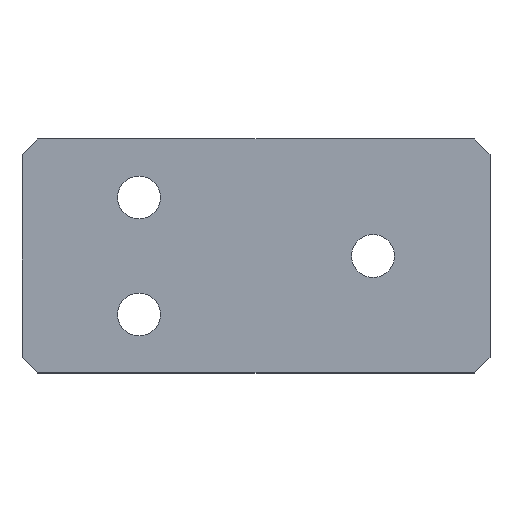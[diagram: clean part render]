
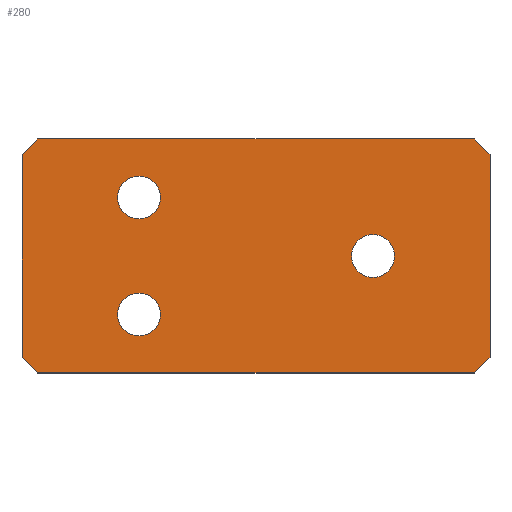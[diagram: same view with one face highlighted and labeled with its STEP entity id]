
A CAD part, top view. The second image highlights one B-rep face of the part: STEP entity #280.
In plain terms, the highlighted planar face has unit normal (0, 0, 1).
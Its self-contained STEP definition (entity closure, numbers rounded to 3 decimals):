
#1 = CARTESIAN_POINT ( 'NONE',  ( -15., 7.5, 2. ) ) ;
#2 = CIRCLE ( 'NONE', #558, 2.75 ) ;
#6 = CARTESIAN_POINT ( 'NONE',  ( 28., 15., 2. ) ) ;
#8 = VERTEX_POINT ( 'NONE', #91 ) ;
#15 = EDGE_CURVE ( 'NONE', #136, #512, #89, .T. ) ;
#20 = PLANE ( 'NONE',  #589 ) ;
#24 = AXIS2_PLACEMENT_3D ( 'NONE', #281, #248, #240 ) ;
#30 = ORIENTED_EDGE ( 'NONE', *, *, #15, .T. ) ;
#36 = LINE ( 'NONE', #352, #222 ) ;
#46 = VERTEX_POINT ( 'NONE', #254 ) ;
#48 = VERTEX_POINT ( 'NONE', #389 ) ;
#57 = CARTESIAN_POINT ( 'NONE',  ( -15., 7.5, 2. ) ) ;
#59 = DIRECTION ( 'NONE',  ( 0., 0., 1. ) ) ;
#73 = ORIENTED_EDGE ( 'NONE', *, *, #587, .F. ) ;
#77 = FACE_BOUND ( 'NONE', #538, .T. ) ;
#80 = VECTOR ( 'NONE', #577, 1000. ) ;
#86 = ORIENTED_EDGE ( 'NONE', *, *, #123, .T. ) ;
#89 = LINE ( 'NONE', #271, #228 ) ;
#91 = CARTESIAN_POINT ( 'NONE',  ( 17.75, 0., 2. ) ) ;
#104 = FACE_BOUND ( 'NONE', #557, .T. ) ;
#105 = VERTEX_POINT ( 'NONE', #524 ) ;
#107 = DIRECTION ( 'NONE',  ( 1., 0., 0. ) ) ;
#113 = DIRECTION ( 'NONE',  ( -0.707, -0.707, 0. ) ) ;
#114 = CIRCLE ( 'NONE', #362, 2.75 ) ;
#120 = EDGE_LOOP ( 'NONE', ( #477, #422 ) ) ;
#121 = VECTOR ( 'NONE', #574, 1000. ) ;
#123 = EDGE_CURVE ( 'NONE', #211, #432, #213, .T. ) ;
#135 = CARTESIAN_POINT ( 'NONE',  ( -15., -7.5, 2. ) ) ;
#136 = VERTEX_POINT ( 'NONE', #296 ) ;
#140 = ORIENTED_EDGE ( 'NONE', *, *, #232, .T. ) ;
#144 = DIRECTION ( 'NONE',  ( 1., 0., 0. ) ) ;
#152 = CARTESIAN_POINT ( 'NONE',  ( 15., 0., 2. ) ) ;
#153 = LINE ( 'NONE', #476, #404 ) ;
#154 = ORIENTED_EDGE ( 'NONE', *, *, #523, .T. ) ;
#162 = VERTEX_POINT ( 'NONE', #481 ) ;
#172 = CARTESIAN_POINT ( 'NONE',  ( 30., 15., 2. ) ) ;
#183 = DIRECTION ( 'NONE',  ( -0.707, 0.707, 0. ) ) ;
#188 = CARTESIAN_POINT ( 'NONE',  ( 30., -15., 2. ) ) ;
#191 = DIRECTION ( 'NONE',  ( 1., 0., 0. ) ) ;
#193 = LINE ( 'NONE', #239, #375 ) ;
#198 = CARTESIAN_POINT ( 'NONE',  ( -15., -7.5, 2. ) ) ;
#201 = VECTOR ( 'NONE', #545, 1000. ) ;
#204 = CARTESIAN_POINT ( 'NONE',  ( 0., 0., 2. ) ) ;
#211 = VERTEX_POINT ( 'NONE', #561 ) ;
#212 = EDGE_CURVE ( 'NONE', #8, #46, #459, .T. ) ;
#213 = LINE ( 'NONE', #530, #121 ) ;
#222 = VECTOR ( 'NONE', #349, 1000. ) ;
#228 = VECTOR ( 'NONE', #183, 1000. ) ;
#232 = EDGE_CURVE ( 'NONE', #384, #105, #153, .T. ) ;
#234 = DIRECTION ( 'NONE',  ( 0.707, -0.707, 0. ) ) ;
#235 = ORIENTED_EDGE ( 'NONE', *, *, #212, .F. ) ;
#239 = CARTESIAN_POINT ( 'NONE',  ( -21.5, -21.5, 2. ) ) ;
#240 = DIRECTION ( 'NONE',  ( 1., 0., 0. ) ) ;
#246 = ORIENTED_EDGE ( 'NONE', *, *, #584, .F. ) ;
#247 = VERTEX_POINT ( 'NONE', #370 ) ;
#248 = DIRECTION ( 'NONE',  ( 0., 0., 1. ) ) ;
#253 = EDGE_LOOP ( 'NONE', ( #334, #457, #423, #86, #154, #30, #373, #140 ) ) ;
#254 = CARTESIAN_POINT ( 'NONE',  ( 12.25, 0., 2. ) ) ;
#258 = DIRECTION ( 'NONE',  ( 1., 0., 0. ) ) ;
#259 = CARTESIAN_POINT ( 'NONE',  ( -28., 15., 2. ) ) ;
#260 = VECTOR ( 'NONE', #398, 1000. ) ;
#263 = CARTESIAN_POINT ( 'NONE',  ( 30., -15., 2. ) ) ;
#271 = CARTESIAN_POINT ( 'NONE',  ( 21.5, 21.5, 2. ) ) ;
#274 = DIRECTION ( 'NONE',  ( 1., 0., 0. ) ) ;
#276 = DIRECTION ( 'NONE',  ( 0., 0., 1. ) ) ;
#280 = ADVANCED_FACE ( 'NONE', ( #77, #104, #468, #383 ), #20, .T. ) ;
#281 = CARTESIAN_POINT ( 'NONE',  ( 15., 0., 2. ) ) ;
#296 = CARTESIAN_POINT ( 'NONE',  ( 30., 13., 2. ) ) ;
#302 = AXIS2_PLACEMENT_3D ( 'NONE', #152, #331, #107 ) ;
#304 = LINE ( 'NONE', #172, #80 ) ;
#317 = CIRCLE ( 'NONE', #588, 2.75 ) ;
#324 = CIRCLE ( 'NONE', #302, 2.75 ) ;
#329 = EDGE_CURVE ( 'NONE', #590, #211, #583, .T. ) ;
#331 = DIRECTION ( 'NONE',  ( 0., 0., 1. ) ) ;
#334 = ORIENTED_EDGE ( 'NONE', *, *, #372, .T. ) ;
#346 = EDGE_CURVE ( 'NONE', #512, #384, #304, .T. ) ;
#349 = DIRECTION ( 'NONE',  ( 0., -1., 0. ) ) ;
#350 = VERTEX_POINT ( 'NONE', #490 ) ;
#352 = CARTESIAN_POINT ( 'NONE',  ( -30., -15., 2. ) ) ;
#355 = DIRECTION ( 'NONE',  ( 1., 0., 0. ) ) ;
#362 = AXIS2_PLACEMENT_3D ( 'NONE', #135, #449, #355 ) ;
#370 = CARTESIAN_POINT ( 'NONE',  ( -12.25, -7.5, 2. ) ) ;
#372 = EDGE_CURVE ( 'NONE', #105, #471, #36, .T. ) ;
#373 = ORIENTED_EDGE ( 'NONE', *, *, #346, .T. ) ;
#375 = VECTOR ( 'NONE', #234, 1000. ) ;
#383 = FACE_OUTER_BOUND ( 'NONE', #253, .T. ) ;
#384 = VERTEX_POINT ( 'NONE', #259 ) ;
#387 = ORIENTED_EDGE ( 'NONE', *, *, #391, .F. ) ;
#389 = CARTESIAN_POINT ( 'NONE',  ( -17.75, -7.5, 2. ) ) ;
#391 = EDGE_CURVE ( 'NONE', #247, #48, #114, .T. ) ;
#398 = DIRECTION ( 'NONE',  ( 1., 0., 0. ) ) ;
#404 = VECTOR ( 'NONE', #113, 1000. ) ;
#409 = DIRECTION ( 'NONE',  ( 0., 0., 1. ) ) ;
#422 = ORIENTED_EDGE ( 'NONE', *, *, #496, .F. ) ;
#423 = ORIENTED_EDGE ( 'NONE', *, *, #329, .T. ) ;
#432 = VERTEX_POINT ( 'NONE', #529 ) ;
#449 = DIRECTION ( 'NONE',  ( 0., 0., 1. ) ) ;
#453 = CIRCLE ( 'NONE', #501, 2.75 ) ;
#457 = ORIENTED_EDGE ( 'NONE', *, *, #487, .T. ) ;
#459 = CIRCLE ( 'NONE', #24, 2.75 ) ;
#461 = CARTESIAN_POINT ( 'NONE',  ( -28., -15., 2. ) ) ;
#468 = FACE_BOUND ( 'NONE', #120, .T. ) ;
#471 = VERTEX_POINT ( 'NONE', #560 ) ;
#476 = CARTESIAN_POINT ( 'NONE',  ( -21.5, 21.5, 2. ) ) ;
#477 = ORIENTED_EDGE ( 'NONE', *, *, #485, .F. ) ;
#481 = CARTESIAN_POINT ( 'NONE',  ( -17.75, 7.5, 2. ) ) ;
#485 = EDGE_CURVE ( 'NONE', #350, #162, #2, .T. ) ;
#487 = EDGE_CURVE ( 'NONE', #471, #590, #193, .T. ) ;
#490 = CARTESIAN_POINT ( 'NONE',  ( -12.25, 7.5, 2. ) ) ;
#496 = EDGE_CURVE ( 'NONE', #162, #350, #453, .T. ) ;
#501 = AXIS2_PLACEMENT_3D ( 'NONE', #1, #409, #274 ) ;
#502 = DIRECTION ( 'NONE',  ( 0., 0., 1. ) ) ;
#512 = VERTEX_POINT ( 'NONE', #6 ) ;
#523 = EDGE_CURVE ( 'NONE', #432, #136, #547, .T. ) ;
#524 = CARTESIAN_POINT ( 'NONE',  ( -30., 13., 2. ) ) ;
#529 = CARTESIAN_POINT ( 'NONE',  ( 30., -13., 2. ) ) ;
#530 = CARTESIAN_POINT ( 'NONE',  ( 21.5, -21.5, 2. ) ) ;
#538 = EDGE_LOOP ( 'NONE', ( #387, #246 ) ) ;
#545 = DIRECTION ( 'NONE',  ( 0., 1., 0. ) ) ;
#547 = LINE ( 'NONE', #188, #201 ) ;
#557 = EDGE_LOOP ( 'NONE', ( #235, #73 ) ) ;
#558 = AXIS2_PLACEMENT_3D ( 'NONE', #57, #276, #144 ) ;
#560 = CARTESIAN_POINT ( 'NONE',  ( -30., -13., 2. ) ) ;
#561 = CARTESIAN_POINT ( 'NONE',  ( 28., -15., 2. ) ) ;
#574 = DIRECTION ( 'NONE',  ( 0.707, 0.707, 0. ) ) ;
#577 = DIRECTION ( 'NONE',  ( -1., 0., 0. ) ) ;
#583 = LINE ( 'NONE', #263, #260 ) ;
#584 = EDGE_CURVE ( 'NONE', #48, #247, #317, .T. ) ;
#587 = EDGE_CURVE ( 'NONE', #46, #8, #324, .T. ) ;
#588 = AXIS2_PLACEMENT_3D ( 'NONE', #198, #502, #191 ) ;
#589 = AXIS2_PLACEMENT_3D ( 'NONE', #204, #59, #258 ) ;
#590 = VERTEX_POINT ( 'NONE', #461 ) ;
